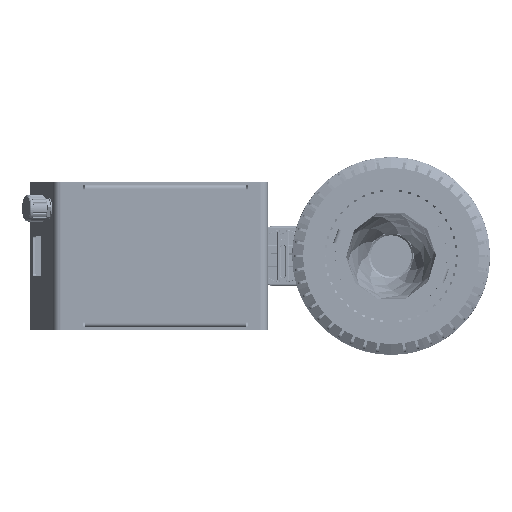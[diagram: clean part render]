
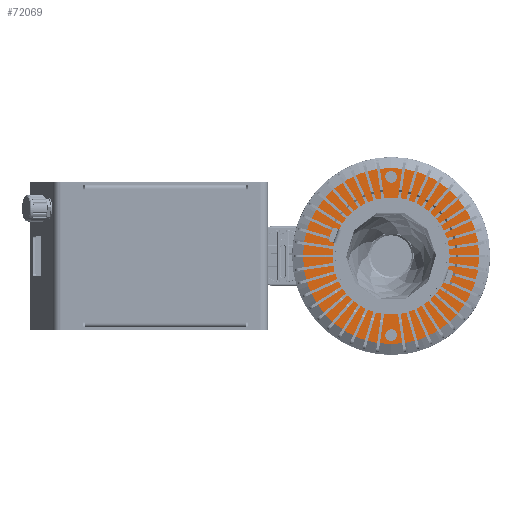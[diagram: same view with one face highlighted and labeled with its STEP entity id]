
A CAD part, front view. The second image highlights one B-rep face of the part: STEP entity #72069.
In plain terms, the highlighted planar face has unit normal (0, -1, 0).
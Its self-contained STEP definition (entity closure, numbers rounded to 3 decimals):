
#360 = AXIS2_PLACEMENT_3D ( 'NONE', #73102, #212867, #56026 ) ;
#512 = CARTESIAN_POINT ( 'NONE',  ( -44., 0., -3.25 ) ) ;
#965 = AXIS2_PLACEMENT_3D ( 'NONE', #59377, #162424, #75372 ) ;
#7997 = CIRCLE ( 'NONE', #106806, 3.25 ) ;
#8954 = CARTESIAN_POINT ( 'NONE',  ( -29., 0., 0. ) ) ;
#9551 = DIRECTION ( 'NONE',  ( 0., -1., 0. ) ) ;
#14544 = CIRCLE ( 'NONE', #62034, 1.6 ) ;
#15660 = EDGE_CURVE ( 'NONE', #79008, #81985, #95372, .T. ) ;
#17775 = CARTESIAN_POINT ( 'NONE',  ( 11.287, 0., 31.01 ) ) ;
#22715 = EDGE_CURVE ( 'NONE', #144219, #136445, #210727, .T. ) ;
#23438 = PLANE ( 'NONE',  #204602 ) ;
#25160 = CIRCLE ( 'NONE', #131041, 1.6 ) ;
#26000 = CARTESIAN_POINT ( 'NONE',  ( 0., 0., 0. ) ) ;
#28622 = EDGE_LOOP ( 'NONE', ( #55185, #38984 ) ) ;
#34934 = DIRECTION ( 'NONE',  ( 1., 0., 0. ) ) ;
#35612 = CARTESIAN_POINT ( 'NONE',  ( 0., 0., 0. ) ) ;
#38600 = CIRCLE ( 'NONE', #115420, 3.25 ) ;
#38984 = ORIENTED_EDGE ( 'NONE', *, *, #177788, .T. ) ;
#40286 = CARTESIAN_POINT ( 'NONE',  ( 12.887, 0., 31.01 ) ) ;
#40571 = FACE_OUTER_BOUND ( 'NONE', #145348, .T. ) ;
#42854 = FACE_BOUND ( 'NONE', #102197, .T. ) ;
#44309 = DIRECTION ( 'NONE',  ( 0., -1., 0. ) ) ;
#45287 = EDGE_CURVE ( 'NONE', #81985, #79008, #7997, .T. ) ;
#45330 = VERTEX_POINT ( 'NONE', #8954 ) ;
#50833 = ORIENTED_EDGE ( 'NONE', *, *, #135368, .T. ) ;
#52357 = VERTEX_POINT ( 'NONE', #147878 ) ;
#52483 = VERTEX_POINT ( 'NONE', #87051 ) ;
#52632 = DIRECTION ( 'NONE',  ( 0., 0., 1. ) ) ;
#54993 = AXIS2_PLACEMENT_3D ( 'NONE', #26000, #44309, #130163 ) ;
#55185 = ORIENTED_EDGE ( 'NONE', *, *, #219096, .T. ) ;
#56026 = DIRECTION ( 'NONE',  ( 0., 0., 1. ) ) ;
#57605 = CARTESIAN_POINT ( 'NONE',  ( -49., 0., 0. ) ) ;
#59377 = CARTESIAN_POINT ( 'NONE',  ( 0., 0., 0. ) ) ;
#59441 = CIRCLE ( 'NONE', #965, 49. ) ;
#62034 = AXIS2_PLACEMENT_3D ( 'NONE', #87823, #190917, #90074 ) ;
#64127 = VERTEX_POINT ( 'NONE', #57605 ) ;
#65468 = CARTESIAN_POINT ( 'NONE',  ( 0., 0., 0. ) ) ;
#66493 = AXIS2_PLACEMENT_3D ( 'NONE', #35612, #108757, #105388 ) ;
#69667 = CARTESIAN_POINT ( 'NONE',  ( 44., 0., 0. ) ) ;
#72069 = ADVANCED_FACE ( 'NONE', ( #148159, #74858, #196313, #40571, #197428, #42854 ), #23438, .T. ) ;
#73102 = CARTESIAN_POINT ( 'NONE',  ( -44., 0., 0. ) ) ;
#74532 = EDGE_CURVE ( 'NONE', #52483, #64127, #59441, .T. ) ;
#74577 = CARTESIAN_POINT ( 'NONE',  ( -12.887, 0., -31.01 ) ) ;
#74858 = FACE_BOUND ( 'NONE', #108449, .T. ) ;
#75243 = CARTESIAN_POINT ( 'NONE',  ( -44., 0., 3.25 ) ) ;
#75372 = DIRECTION ( 'NONE',  ( 1., 0., 0. ) ) ;
#79008 = VERTEX_POINT ( 'NONE', #512 ) ;
#79818 = ORIENTED_EDGE ( 'NONE', *, *, #163563, .F. ) ;
#81985 = VERTEX_POINT ( 'NONE', #75243 ) ;
#83463 = CARTESIAN_POINT ( 'NONE',  ( -9.687, 0., -31.01 ) ) ;
#85749 = CARTESIAN_POINT ( 'NONE',  ( -44., 0., 0. ) ) ;
#87051 = CARTESIAN_POINT ( 'NONE',  ( 49., 0., 0. ) ) ;
#87823 = CARTESIAN_POINT ( 'NONE',  ( -11.287, 0., -31.01 ) ) ;
#90060 = AXIS2_PLACEMENT_3D ( 'NONE', #183588, #9551, #188060 ) ;
#90074 = DIRECTION ( 'NONE',  ( 1., 0., 0. ) ) ;
#90352 = VERTEX_POINT ( 'NONE', #74577 ) ;
#94294 = CARTESIAN_POINT ( 'NONE',  ( 49., 0., 0. ) ) ;
#95372 = CIRCLE ( 'NONE', #360, 3.25 ) ;
#95427 = DIRECTION ( 'NONE',  ( 1., 0., 0. ) ) ;
#95635 = ORIENTED_EDGE ( 'NONE', *, *, #74532, .T. ) ;
#95873 = CARTESIAN_POINT ( 'NONE',  ( 44., 0., -3.25 ) ) ;
#96609 = ORIENTED_EDGE ( 'NONE', *, *, #15660, .T. ) ;
#102197 = EDGE_LOOP ( 'NONE', ( #96609, #136661 ) ) ;
#105388 = DIRECTION ( 'NONE',  ( 1., 0., 0. ) ) ;
#106806 = AXIS2_PLACEMENT_3D ( 'NONE', #85749, #139552, #52632 ) ;
#108449 = EDGE_LOOP ( 'NONE', ( #171288, #146595 ) ) ;
#108757 = DIRECTION ( 'NONE',  ( 0., -1., 0. ) ) ;
#108861 = EDGE_LOOP ( 'NONE', ( #79818, #172316 ) ) ;
#113339 = AXIS2_PLACEMENT_3D ( 'NONE', #69667, #139534, #122420 ) ;
#115420 = AXIS2_PLACEMENT_3D ( 'NONE', #204403, #220418, #172281 ) ;
#116440 = DIRECTION ( 'NONE',  ( 0., -1., 0. ) ) ;
#120281 = EDGE_CURVE ( 'NONE', #171640, #90352, #214408, .T. ) ;
#122420 = DIRECTION ( 'NONE',  ( 0., 0., 1. ) ) ;
#130163 = DIRECTION ( 'NONE',  ( 1., 0., 0. ) ) ;
#130219 = CARTESIAN_POINT ( 'NONE',  ( -11.287, 0., -31.01 ) ) ;
#131041 = AXIS2_PLACEMENT_3D ( 'NONE', #17775, #141354, #34934 ) ;
#135280 = DIRECTION ( 'NONE',  ( 1., 0., 0. ) ) ;
#135368 = EDGE_CURVE ( 'NONE', #64127, #52483, #153672, .T. ) ;
#136445 = VERTEX_POINT ( 'NONE', #174939 ) ;
#136661 = ORIENTED_EDGE ( 'NONE', *, *, #45287, .T. ) ;
#139335 = ORIENTED_EDGE ( 'NONE', *, *, #216571, .F. ) ;
#139534 = DIRECTION ( 'NONE',  ( 0., 1., 0. ) ) ;
#139552 = DIRECTION ( 'NONE',  ( 0., 1., 0. ) ) ;
#141354 = DIRECTION ( 'NONE',  ( 0., -1., 0. ) ) ;
#144219 = VERTEX_POINT ( 'NONE', #40286 ) ;
#145348 = EDGE_LOOP ( 'NONE', ( #50833, #95635 ) ) ;
#146595 = ORIENTED_EDGE ( 'NONE', *, *, #120281, .F. ) ;
#147878 = CARTESIAN_POINT ( 'NONE',  ( 44., 0., 3.25 ) ) ;
#148159 = FACE_BOUND ( 'NONE', #148977, .T. ) ;
#148574 = EDGE_CURVE ( 'NONE', #90352, #171640, #14544, .T. ) ;
#148977 = EDGE_LOOP ( 'NONE', ( #139335, #211077 ) ) ;
#150279 = DIRECTION ( 'NONE',  ( 0., -1., 0. ) ) ;
#153672 = CIRCLE ( 'NONE', #54993, 49. ) ;
#154853 = AXIS2_PLACEMENT_3D ( 'NONE', #65468, #150279, #135280 ) ;
#158990 = CARTESIAN_POINT ( 'NONE',  ( 29., 0., 0. ) ) ;
#162424 = DIRECTION ( 'NONE',  ( 0., -1., 0. ) ) ;
#163563 = EDGE_CURVE ( 'NONE', #45330, #191474, #176791, .T. ) ;
#171288 = ORIENTED_EDGE ( 'NONE', *, *, #148574, .F. ) ;
#171640 = VERTEX_POINT ( 'NONE', #83463 ) ;
#172281 = DIRECTION ( 'NONE',  ( 0., 0., 1. ) ) ;
#172316 = ORIENTED_EDGE ( 'NONE', *, *, #225171, .F. ) ;
#174939 = CARTESIAN_POINT ( 'NONE',  ( 9.687, 0., 31.01 ) ) ;
#176408 = CIRCLE ( 'NONE', #66493, 29. ) ;
#176791 = CIRCLE ( 'NONE', #154853, 29. ) ;
#177788 = EDGE_CURVE ( 'NONE', #52357, #199432, #38600, .T. ) ;
#182564 = DIRECTION ( 'NONE',  ( 0., -1., 0. ) ) ;
#183588 = CARTESIAN_POINT ( 'NONE',  ( 11.287, 0., 31.01 ) ) ;
#186335 = DIRECTION ( 'NONE',  ( 1., 0., 0. ) ) ;
#188060 = DIRECTION ( 'NONE',  ( 1., 0., 0. ) ) ;
#190917 = DIRECTION ( 'NONE',  ( 0., -1., 0. ) ) ;
#191474 = VERTEX_POINT ( 'NONE', #158990 ) ;
#196313 = FACE_BOUND ( 'NONE', #28622, .T. ) ;
#197428 = FACE_BOUND ( 'NONE', #108861, .T. ) ;
#199432 = VERTEX_POINT ( 'NONE', #95873 ) ;
#199699 = AXIS2_PLACEMENT_3D ( 'NONE', #130219, #116440, #186335 ) ;
#204403 = CARTESIAN_POINT ( 'NONE',  ( 44., 0., 0. ) ) ;
#204602 = AXIS2_PLACEMENT_3D ( 'NONE', #94294, #182564, #95427 ) ;
#210727 = CIRCLE ( 'NONE', #90060, 1.6 ) ;
#211077 = ORIENTED_EDGE ( 'NONE', *, *, #22715, .F. ) ;
#212867 = DIRECTION ( 'NONE',  ( 0., 1., 0. ) ) ;
#214408 = CIRCLE ( 'NONE', #199699, 1.6 ) ;
#216571 = EDGE_CURVE ( 'NONE', #136445, #144219, #25160, .T. ) ;
#219096 = EDGE_CURVE ( 'NONE', #199432, #52357, #219478, .T. ) ;
#219478 = CIRCLE ( 'NONE', #113339, 3.25 ) ;
#220418 = DIRECTION ( 'NONE',  ( 0., 1., 0. ) ) ;
#225171 = EDGE_CURVE ( 'NONE', #191474, #45330, #176408, .T. ) ;
